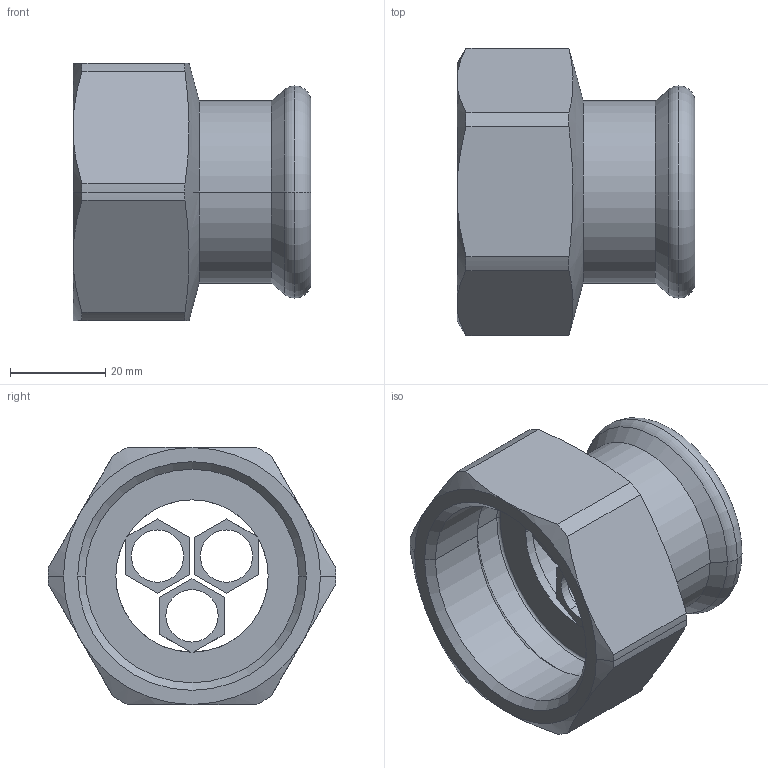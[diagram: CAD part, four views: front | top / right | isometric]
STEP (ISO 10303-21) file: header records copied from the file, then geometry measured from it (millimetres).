
FILE_DESCRIPTION(('OneSpaceDesigner STEP Export'),'2;1');
FILE_NAME('R2702 35xRp1 1-2.stp','2010-06-08T15:03:30',(''),(''),'OneSpace Designer STEP processor for AP214 (Solid Model)','OneSpace Modeling 15.00A 14-Mar-2007 (C) CoCreate Software GmbH','');
FILE_SCHEMA(('AUTOMOTIVE_DESIGN { 1 0 10303 214 1 1 1 1 }'));
Length unit declared in the file: millimetre
Products named in the file (2): R2702_35xRp3-2
Assembly tree (1 placements, depth 2):
  R2702_35xRp3-2
    R2702_35xRp3-2
Bounding box: 50 x 60.5 x 54 mm (x, y, z)
Volume: 30664.1 mm3; surface area: 18385.7 mm2
Topology: 1 solids, 1 shells, 87 faces, 220 edges, 137 vertices
Faces by surface type: plane 34, cylinder 29, cone 18, torus 6
Entity records: 3099 total; most frequent: CARTESIAN_POINT 1255, ORIENTED_EDGE 440, DIRECTION 287, EDGE_CURVE 220, VERTEX_POINT 137, VECTOR 113, LINE 113, EDGE_LOOP 97
